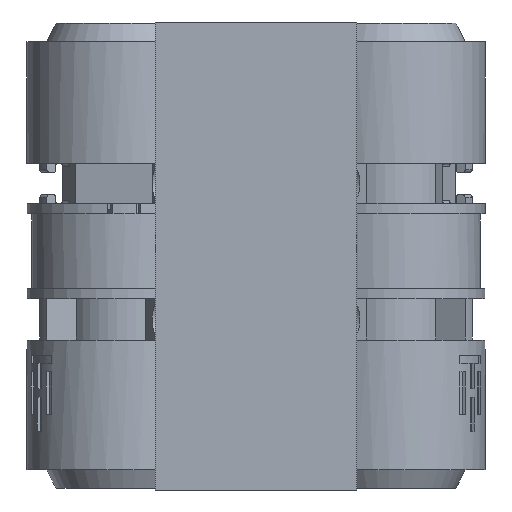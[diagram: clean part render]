
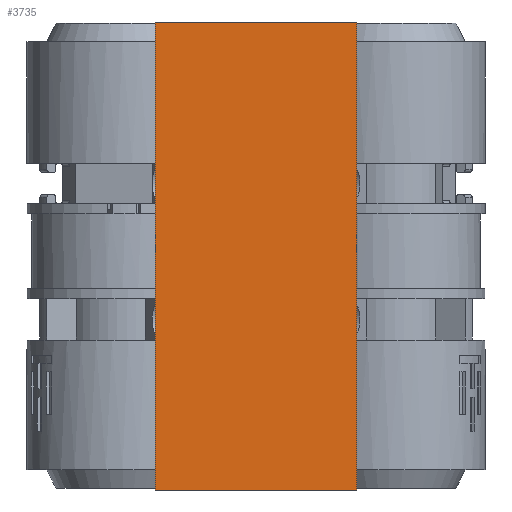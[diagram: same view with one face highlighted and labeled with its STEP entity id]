
A CAD part, front view. The second image highlights one B-rep face of the part: STEP entity #3735.
In plain terms, the highlighted planar face has unit normal (0, -1, 0) as drawn and (0, 0, 1) by its records, which use the part's own axes.
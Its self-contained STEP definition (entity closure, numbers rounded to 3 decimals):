
#181=PLANE('',#4091);
#388=FACE_OUTER_BOUND('',#593,.T.);
#593=EDGE_LOOP('',(#3408,#3409,#3410,#3411));
#964=LINE('',#6192,#1369);
#968=LINE('',#6201,#1373);
#970=LINE('',#6204,#1375);
#971=LINE('',#6205,#1376);
#1369=VECTOR('',#5093,10.);
#1373=VECTOR('',#5099,10.);
#1375=VECTOR('',#5103,10.);
#1376=VECTOR('',#5104,10.);
#1863=VERTEX_POINT('',#6189);
#1864=VERTEX_POINT('',#6191);
#1867=VERTEX_POINT('',#6198);
#1868=VERTEX_POINT('',#6200);
#2382=EDGE_CURVE('',#1864,#1863,#964,.T.);
#2386=EDGE_CURVE('',#1868,#1867,#968,.T.);
#2388=EDGE_CURVE('',#1863,#1868,#970,.T.);
#2389=EDGE_CURVE('',#1867,#1864,#971,.T.);
#3408=ORIENTED_EDGE('',*,*,#2388,.T.);
#3409=ORIENTED_EDGE('',*,*,#2386,.T.);
#3410=ORIENTED_EDGE('',*,*,#2389,.T.);
#3411=ORIENTED_EDGE('',*,*,#2382,.T.);
#3735=ADVANCED_FACE('',(#388),#181,.T.);
#4091=AXIS2_PLACEMENT_3D('',#6203,#5101,#5102);
#5093=DIRECTION('',(0.,-1.,0.));
#5099=DIRECTION('',(0.,1.,0.));
#5101=DIRECTION('center_axis',(0.,0.,1.));
#5102=DIRECTION('ref_axis',(1.,0.,0.));
#5103=DIRECTION('',(1.,0.,0.));
#5104=DIRECTION('',(-1.,0.,0.));
#6189=CARTESIAN_POINT('',(-5.,0.,10.));
#6191=CARTESIAN_POINT('',(-5.,23.2,10.));
#6192=CARTESIAN_POINT('',(-5.,0.,10.));
#6198=CARTESIAN_POINT('',(5.,23.2,10.));
#6200=CARTESIAN_POINT('',(5.,0.,10.));
#6201=CARTESIAN_POINT('',(5.,23.2,10.));
#6203=CARTESIAN_POINT('Origin',(0.,11.6,10.));
#6204=CARTESIAN_POINT('',(5.,0.,10.));
#6205=CARTESIAN_POINT('',(-5.,23.2,10.));
